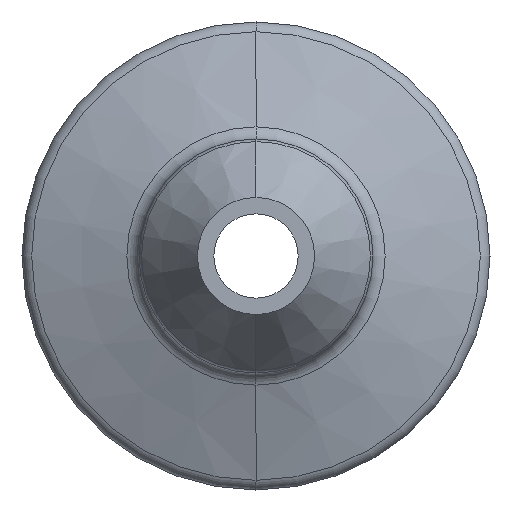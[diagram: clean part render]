
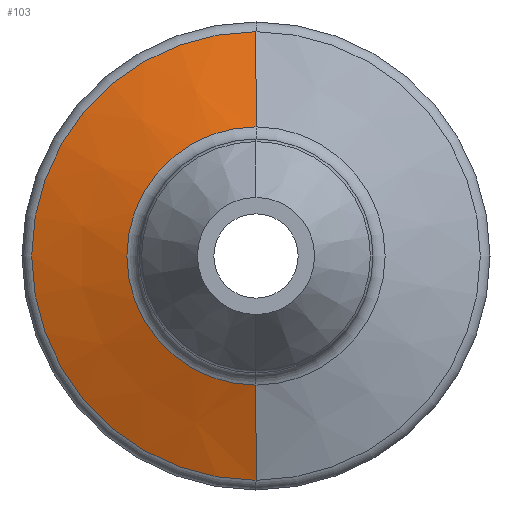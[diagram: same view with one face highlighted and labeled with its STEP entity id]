
A CAD part, left-side view. The second image highlights one B-rep face of the part: STEP entity #103.
In plain terms, the highlighted conical face has half-angle 70 degrees and reference radius 7.008 mm.
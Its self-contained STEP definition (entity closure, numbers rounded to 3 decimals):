
#6 = CIRCLE ( 'NONE', #946, 7.008 ) ;
#24 = DIRECTION ( 'NONE',  ( 0.342, 0., -0.94 ) ) ;
#30 = VERTEX_POINT ( 'NONE', #345 ) ;
#72 = EDGE_CURVE ( 'NONE', #852, #824, #266, .T. ) ;
#103 = ADVANCED_FACE ( 'NONE', ( #850 ), #142, .T. ) ;
#119 = ORIENTED_EDGE ( 'NONE', *, *, #618, .T. ) ;
#142 = CONICAL_SURFACE ( 'NONE', #197, 7.008, 1.222 ) ;
#197 = AXIS2_PLACEMENT_3D ( 'NONE', #1002, #602, #670 ) ;
#261 = CARTESIAN_POINT ( 'NONE',  ( 54.653, 0., -7.008 ) ) ;
#266 = LINE ( 'NONE', #261, #959 ) ;
#273 = ORIENTED_EDGE ( 'NONE', *, *, #72, .F. ) ;
#275 = EDGE_LOOP ( 'NONE', ( #588, #119, #575, #273 ) ) ;
#319 = CIRCLE ( 'NONE', #551, 12.174 ) ;
#327 = DIRECTION ( 'NONE',  ( -1., 0., 0. ) ) ;
#340 = LINE ( 'NONE', #362, #452 ) ;
#342 = CARTESIAN_POINT ( 'NONE',  ( 54.653, 0., -7.008 ) ) ;
#345 = CARTESIAN_POINT ( 'NONE',  ( 54.653, 0., 7.008 ) ) ;
#362 = CARTESIAN_POINT ( 'NONE',  ( 54.653, 0., 7.008 ) ) ;
#452 = VECTOR ( 'NONE', #939, 1000. ) ;
#551 = AXIS2_PLACEMENT_3D ( 'NONE', #994, #327, #837 ) ;
#575 = ORIENTED_EDGE ( 'NONE', *, *, #938, .T. ) ;
#588 = ORIENTED_EDGE ( 'NONE', *, *, #766, .F. ) ;
#602 = DIRECTION ( 'NONE',  ( 1., 0., 0. ) ) ;
#618 = EDGE_CURVE ( 'NONE', #30, #967, #340, .T. ) ;
#626 = CARTESIAN_POINT ( 'NONE',  ( 56.533, 0., 12.174 ) ) ;
#670 = DIRECTION ( 'NONE',  ( 0., 0., -1. ) ) ;
#766 = EDGE_CURVE ( 'NONE', #30, #852, #6, .T. ) ;
#767 = CARTESIAN_POINT ( 'NONE',  ( 54.653, 0., 0. ) ) ;
#779 = CARTESIAN_POINT ( 'NONE',  ( 56.533, 0., -12.174 ) ) ;
#824 = VERTEX_POINT ( 'NONE', #779 ) ;
#837 = DIRECTION ( 'NONE',  ( 0., 0., 1. ) ) ;
#850 = FACE_OUTER_BOUND ( 'NONE', #275, .T. ) ;
#852 = VERTEX_POINT ( 'NONE', #342 ) ;
#929 = DIRECTION ( 'NONE',  ( -1., 0., 0. ) ) ;
#938 = EDGE_CURVE ( 'NONE', #967, #824, #319, .T. ) ;
#939 = DIRECTION ( 'NONE',  ( 0.342, 0., 0.94 ) ) ;
#946 = AXIS2_PLACEMENT_3D ( 'NONE', #767, #929, #995 ) ;
#959 = VECTOR ( 'NONE', #24, 1000. ) ;
#967 = VERTEX_POINT ( 'NONE', #626 ) ;
#994 = CARTESIAN_POINT ( 'NONE',  ( 56.533, 0., 0. ) ) ;
#995 = DIRECTION ( 'NONE',  ( 0., 0., 1. ) ) ;
#1002 = CARTESIAN_POINT ( 'NONE',  ( 54.653, 0., 0. ) ) ;
